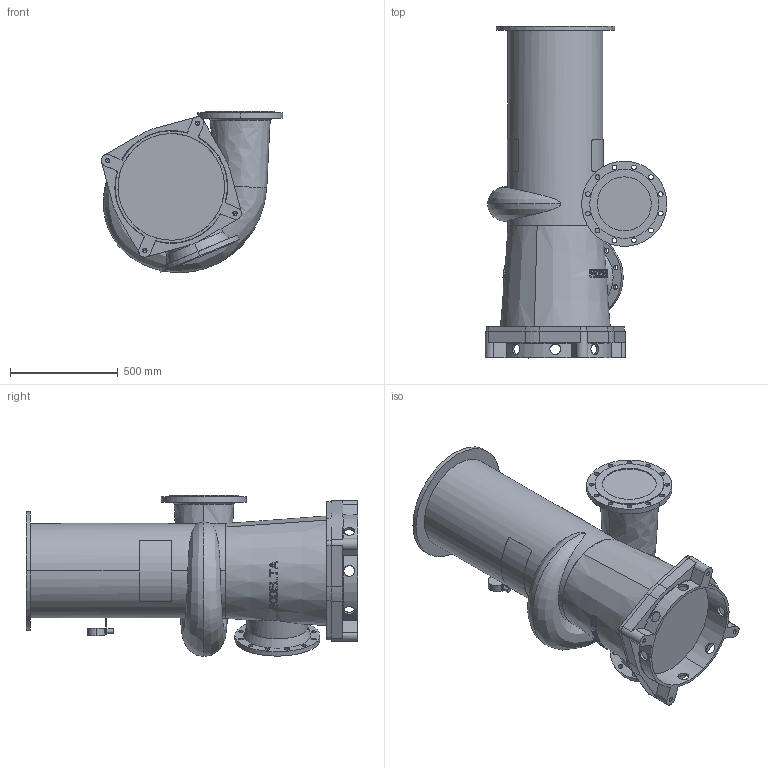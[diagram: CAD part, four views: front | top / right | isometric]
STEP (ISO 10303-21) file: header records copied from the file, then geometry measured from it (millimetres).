
FILE_DESCRIPTION((''),'2;1');
FILE_NAME('8510_ASM','2024-07-30T',('Lyritlocal'),(''),'PRO/ENGINEER BY PARAMETRIC TECHNOLOGY CORPORATION, 2016360','PRO/ENGINEER BY PARAMETRIC TECHNOLOGY CORPORATION, 2016360','');
FILE_SCHEMA(('CONFIG_CONTROL_DESIGN'));
Length unit declared in the file: millimetre
Products named in the file (3): 8510; 8510_VOET; 8510_ASM
Assembly tree (2 placements, depth 2):
  8510_ASM
    8510
    8510_VOET
Bounding box: 842.92 x 1539 x 747.24 mm (x, y, z)
Volume: 297748321.2 mm3; surface area: 4725053.7 mm2
Topology: 2 solids, 6 shells, 542 faces, 1460 edges, 967 vertices
Faces by surface type: plane 343, cylinder 155, cone 34, bspline 6, torus 4
Entity records: 19328 total; most frequent: CARTESIAN_POINT 6085, ORIENTED_EDGE 2888, DIRECTION 2477, EDGE_CURVE 1452, VERTEX_POINT 967, AXIS2_PLACEMENT_3D 961, EDGE_LOOP 659, VECTOR 555
